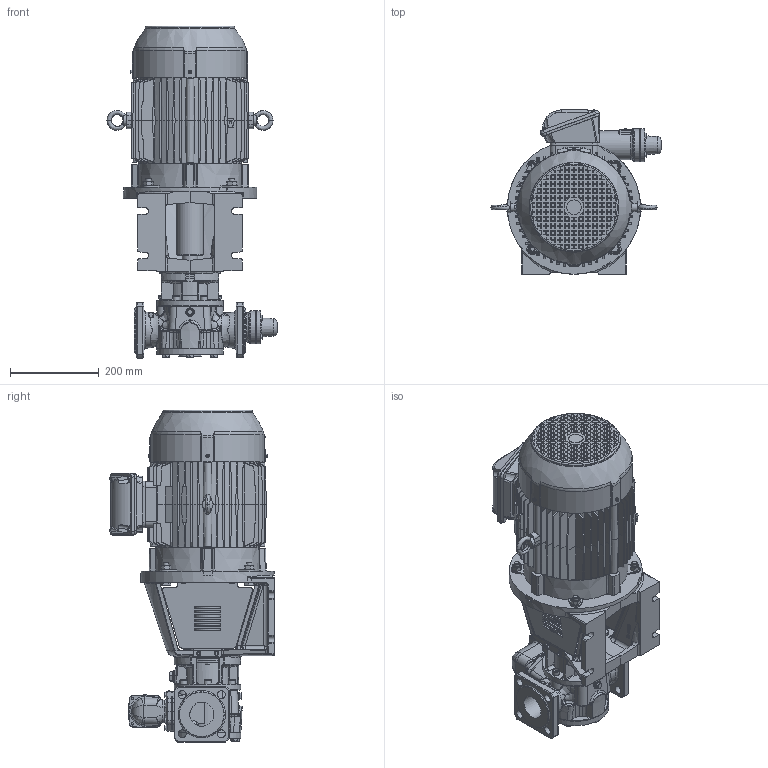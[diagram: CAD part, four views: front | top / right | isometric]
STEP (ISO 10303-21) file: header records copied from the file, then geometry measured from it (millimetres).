
FILE_DESCRIPTION(/* description */ (''),/* implementation_level */ '2;1');
FILE_NAME(/* name */ 'C:\V\JPP\Designs\GEAR PUMPS\PRODUCT ENGINEERING\EUROPE\TG BLOC\TG BLOC_15-50_G2_O_RV1-_132S-STEP.stp',/* time_stamp */ '2021-03-17T09:10:42+01:00',/* author */ ('A77THR'),/* organization */ (''),/* preprocessor_version */ 'ST-DEVELOPER v18.1',/* originating_system */ 'Autodesk Inventor 2020',/* authorisation */ '');
FILE_SCHEMA (('AUTOMOTIVE_DESIGN { 1 0 10303 214 3 1 1 }'));
Products named in the file (1): TG BLOC_15-50_G2_O_RV1-_132S
Bounding box: 383 x 370.15 x 747.7 mm (x, y, z)
Volume: 25208366.9 mm3; surface area: 1524366.1 mm2
Topology: 1 solids, 1 shells, 5293 faces, 13499 edges, 8544 vertices
Faces by surface type: plane 3009, bspline 909, cylinder 743, cone 407, torus 174, sphere 51
Full cylindrical faces by diameter (mm): 4 x1, 4.5 x4, 4.917 x4, 5 x6, 5.459 x16, 6 x19, 6.647 x1, 7 x16, 8.376 x5, 8.5 x2, 8.7 x16, 9.188 x4, 10 x12, 10.5 x1, 11.445 x2, 11.5 x4, 12 x9, 13 x4, 15.011 x3, 15.4 x10, 16 x10, 17.2 x4, 17.9 x3, 18 x11, 19 x3, 21.939 x1, 25.9 x1, 26 x1, 27.9 x1, 28 x1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
Entity records: 216745 total; most frequent: CARTESIAN_POINT 91006, ORIENTED_EDGE 26810, DIRECTION 22511, EDGE_CURVE 13405, VERTEX_POINT 8544, AXIS2_PLACEMENT_3D 7674, LINE 7163, VECTOR 7163
